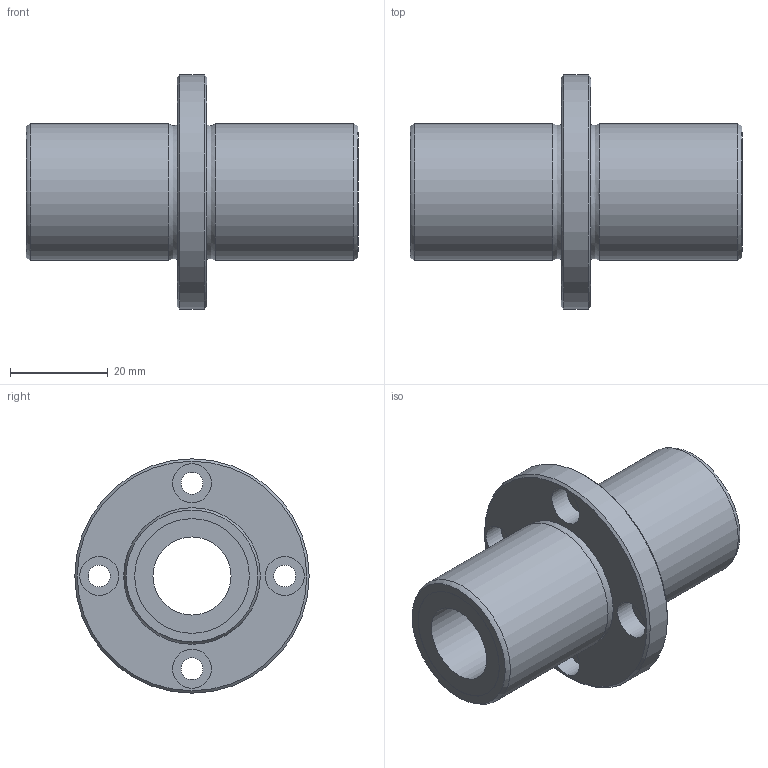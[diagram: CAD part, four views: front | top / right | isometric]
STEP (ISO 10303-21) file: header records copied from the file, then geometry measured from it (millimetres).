
FILE_DESCRIPTION((''),'2;1');
FILE_NAME('D:\製品 (図面)\カタログ用3D\リニアベアリング関連\STEP形式\LFDC\LFDC16.stp','2010-06-03T09:27:30',('Tsuchiya'),(''),'Autodesk Inventor 10','Autodesk Inventor 10','');
FILE_SCHEMA(('AUTOMOTIVE_DESIGN { 1 0 10303 214 1 1 1 1 }'));
Length unit declared in the file: millimetre
Products named in the file (1): LFDC16
Bounding box: 68 x 48 x 48 mm (x, y, z)
Volume: 34176.5 mm3; surface area: 13298.1 mm2
Topology: 1 solids, 1 shells, 30 faces, 54 edges, 34 vertices
Faces by surface type: cylinder 14, plane 10, cone 2, torus 2, bspline 2
Full cylindrical faces by diameter (mm): 4.5 x4, 8 x4, 16 x1, 23.5 x2, 28 x2, 48 x1
Entity records: 803 total; most frequent: CARTESIAN_POINT 223, DIRECTION 126, ORIENTED_EDGE 68, EDGE_LOOP 68, AXIS2_PLACEMENT_3D 63, FACE_BOUND 38, VERTEX_POINT 34, CIRCLE 34
